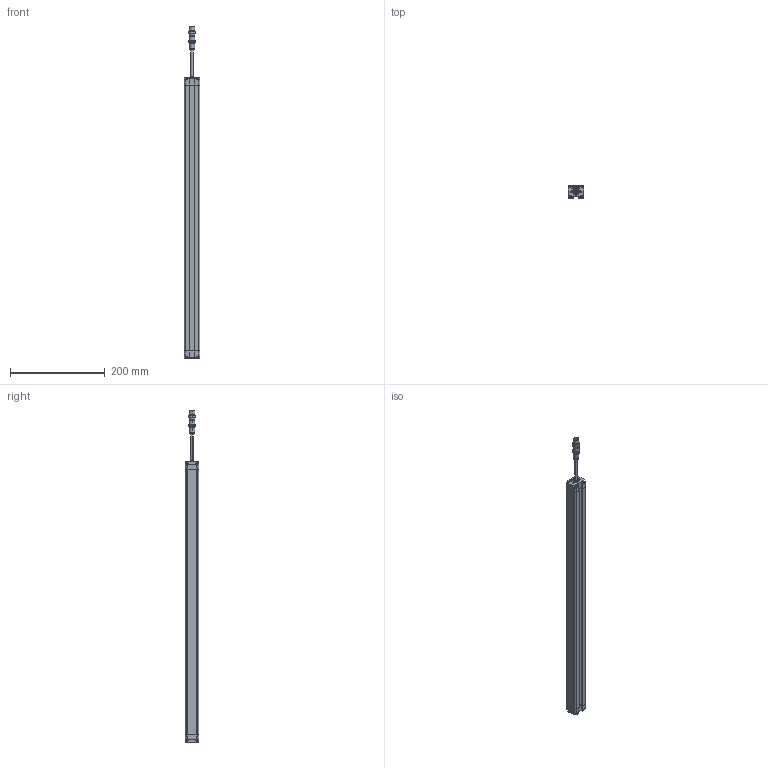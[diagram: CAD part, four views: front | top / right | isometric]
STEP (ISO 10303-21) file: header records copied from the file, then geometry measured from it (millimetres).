
FILE_DESCRIPTION((''),'2;1');
FILE_NAME('SMT1-CGQ_ASM','2025-08-08T08:27:01',('Administrator'),(''),'CREO PARAMETRIC BY PTC INC, 2016510','CREO PARAMETRIC BY PTC INC, 2016510','');
FILE_SCHEMA(('CONFIG_CONTROL_DESIGN'));
Length unit declared in the file: millimetre
Products named in the file (7): SMT1-XINGCAI-V1; SMT1-SDG-V1; SMT1-XDG-V1; M12-CHATOU; ST3X18; CT4-LVGUANGBAN; SMT1-CGQ_ASM
Assembly tree (13 placements, depth 2):
  SMT1-CGQ_ASM
    SMT1-XINGCAI-V1
    SMT1-SDG-V1
    SMT1-XDG-V1
    M12-CHATOU
    ST3X18  x8
    CT4-LVGUANGBAN
Bounding box: 33 x 28.02 x 699.5 mm (x, y, z)
Volume: 460925.6 mm3; surface area: 151611.7 mm2
Topology: 13 solids, 13 shells, 712 faces, 1868 edges, 1200 vertices
Faces by surface type: plane 382, cylinder 184, extrusion 86, sphere 32, cone 20, bspline 8
Entity records: 18128 total; most frequent: CARTESIAN_POINT 4347, ORIENTED_EDGE 2916, DIRECTION 2580, EDGE_CURVE 1458, VECTOR 1036, VERTEX_POINT 955, LINE 950, AXIS2_PLACEMENT_3D 772
